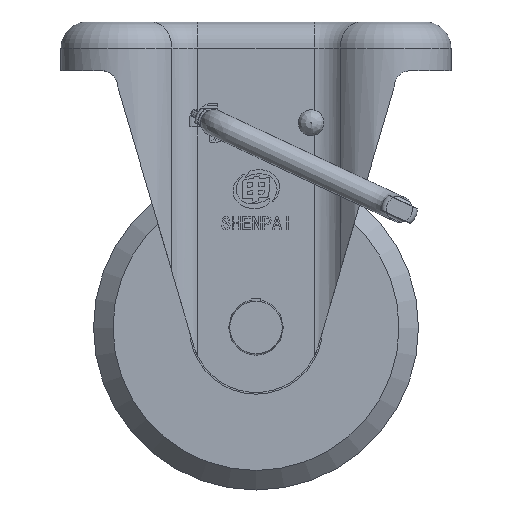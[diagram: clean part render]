
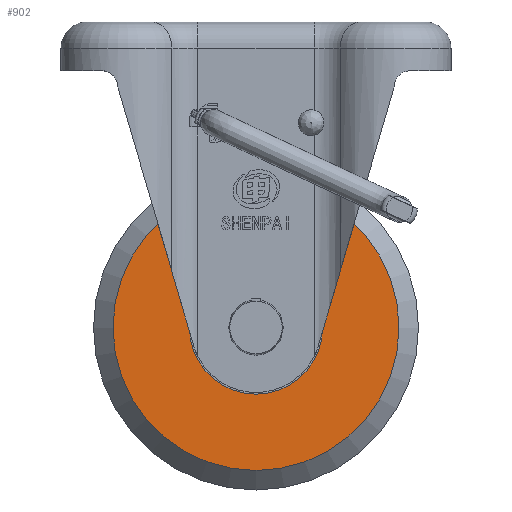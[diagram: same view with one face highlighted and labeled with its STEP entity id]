
A CAD part, front view. The second image highlights one B-rep face of the part: STEP entity #902.
In plain terms, the highlighted planar face has unit normal (0, -1, 0).
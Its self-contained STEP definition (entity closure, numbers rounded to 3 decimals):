
#902=ADVANCED_FACE('',(#1931,#1932),#1302,.T.);
#1302=PLANE('',#9080);
#1931=FACE_BOUND('',#2197,.T.);
#1932=FACE_BOUND('',#2198,.T.);
#2197=EDGE_LOOP('',(#3867));
#2198=EDGE_LOOP('',(#3868));
#2765=CIRCLE('',#9078,44.);
#2766=CIRCLE('',#9079,20.5);
#3867=ORIENTED_EDGE('',*,*,#6841,.T.);
#3868=ORIENTED_EDGE('',*,*,#6842,.F.);
#5846=VERTEX_POINT('',#13392);
#5847=VERTEX_POINT('',#13394);
#6841=EDGE_CURVE('',#5846,#5846,#2765,.T.);
#6842=EDGE_CURVE('',#5847,#5847,#2766,.T.);
#9078=AXIS2_PLACEMENT_3D('',#13391,#10484,#10485);
#9079=AXIS2_PLACEMENT_3D('',#13393,#10486,#10487);
#9080=AXIS2_PLACEMENT_3D('',#13395,#10488,#10489);
#10484=DIRECTION('',(0.,-1.,0.));
#10485=DIRECTION('',(0.,0.,1.));
#10486=DIRECTION('',(0.,-1.,0.));
#10487=DIRECTION('',(0.,0.,1.));
#10488=DIRECTION('',(0.,-1.,0.));
#10489=DIRECTION('',(0.,0.,-1.));
#13391=CARTESIAN_POINT('',(-0.009,-16.,-94.));
#13392=CARTESIAN_POINT('',(-0.009,-16.,-50.));
#13393=CARTESIAN_POINT('',(-0.009,-16.,-94.));
#13394=CARTESIAN_POINT('',(-0.009,-16.,-73.5));
#13395=CARTESIAN_POINT('',(-0.009,-16.,-94.));
